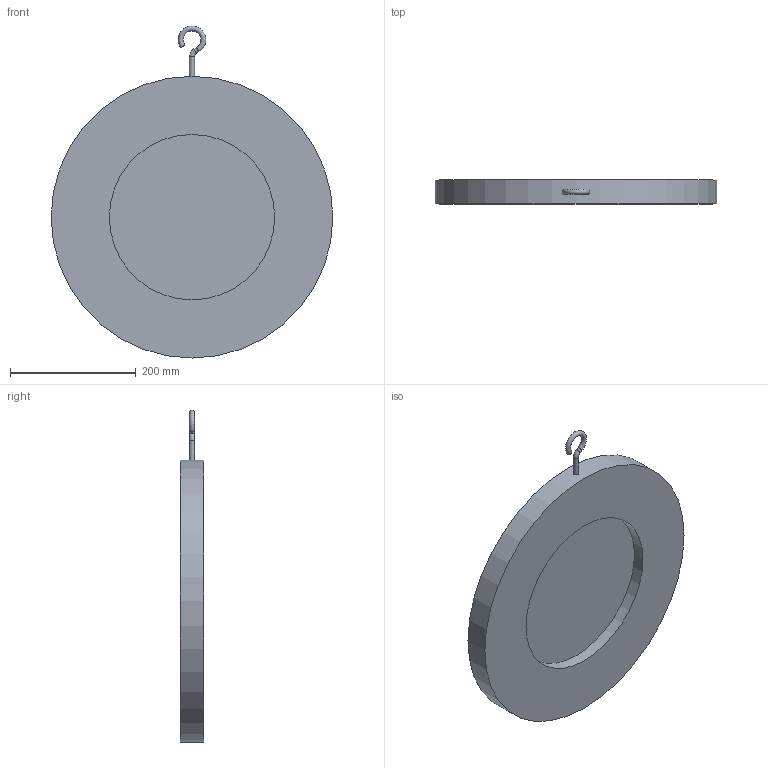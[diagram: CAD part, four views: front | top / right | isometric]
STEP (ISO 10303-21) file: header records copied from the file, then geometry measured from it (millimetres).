
FILE_DESCRIPTION(('STEP AP203'), '1');
FILE_NAME('孰囡囗 钺疣蝽 钿眍耱忸瘅囹 戾骠豚眦邂 008C.Y DN350', '', ('UNSPECIFIED'), ('UNSPECIFIED'), 'ASCON STEP Converter 1.6', 'ASCON Math Kernel', '');
FILE_SCHEMA(('CONFIG_CONTROL_DESIGN'));
Length unit declared in the file: millimetre
Bounding box: 448 x 38 x 528 mm (x, y, z)
Volume: 3753450.2 mm3; surface area: 411560.3 mm2
Topology: 1 solids, 1 shells, 32 faces, 72 edges, 47 vertices
Faces by surface type: plane 17, cylinder 12, torus 2, cone 1
Full cylindrical faces by diameter (mm): 8 x2, 263 x1, 448 x1
Entity records: 1393 total; most frequent: CARTESIAN_POINT 394, DIRECTION 152, ORIENTED_EDGE 130, EDGE_CURVE 65, AXIS2_PLACEMENT_3D 59, VERTEX_POINT 47, EDGE_LOOP 44, LINE 34
